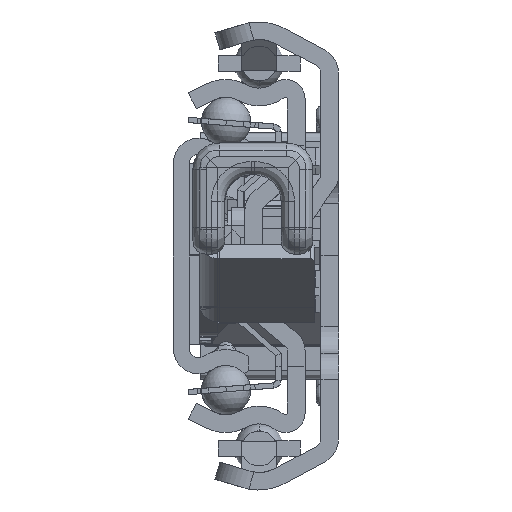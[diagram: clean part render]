
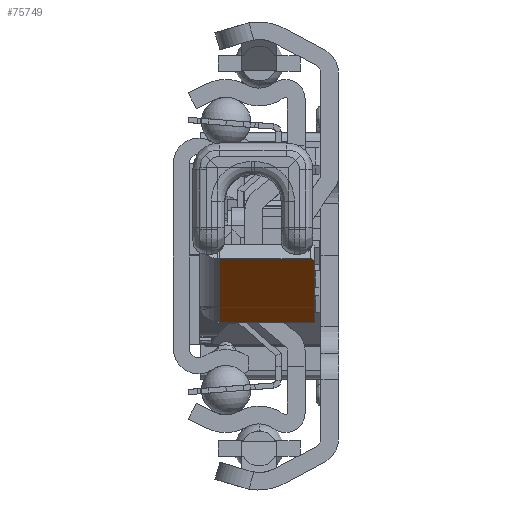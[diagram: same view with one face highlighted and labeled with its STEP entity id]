
A CAD part, left-side view. The second image highlights one B-rep face of the part: STEP entity #75749.
In plain terms, the highlighted planar face has unit normal (-0.597, 0, -0.802) as drawn and (-0.597, -0.802, 0) by its records, which use the part's own axes.
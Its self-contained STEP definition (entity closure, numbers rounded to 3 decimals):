
#75162=DIRECTION('',(0.802,-0.597,0.));
#75163=VECTOR('',#75162,12.);
#75164=CARTESIAN_POINT('',(31.957,-10.314,2.2));
#75165=LINE('',#75164,#75163);
#75190=CARTESIAN_POINT('',(32.358,-10.613,12.5));
#75191=DIRECTION('',(-0.597,-0.802,0.));
#75192=DIRECTION('',(0.,0.,1.));
#75193=AXIS2_PLACEMENT_3D('',#75190,#75191,#75192);
#75195=DIRECTION('',(-0.802,0.597,0.));
#75196=VECTOR('',#75195,11.5);
#75197=CARTESIAN_POINT('',(41.586,-17.476,13.));
#75198=LINE('',#75197,#75196);
#75199=DIRECTION('',(0.,0.,1.));
#75200=VECTOR('',#75199,10.8);
#75201=CARTESIAN_POINT('',(41.586,-17.476,2.2));
#75202=LINE('',#75201,#75200);
#75203=DIRECTION('',(0.,0.,-1.));
#75204=VECTOR('',#75203,10.3);
#75205=CARTESIAN_POINT('',(31.957,-10.314,12.5));
#75206=LINE('',#75205,#75204);
#75410=CARTESIAN_POINT('',(41.586,-17.476,2.2));
#75411=CARTESIAN_POINT('',(41.586,-17.476,13.));
#75412=VERTEX_POINT('',#75410);
#75413=VERTEX_POINT('',#75411);
#75414=CARTESIAN_POINT('',(31.957,-10.314,2.2));
#75415=VERTEX_POINT('',#75414);
#75446=CARTESIAN_POINT('',(32.358,-10.613,13.));
#75447=CARTESIAN_POINT('',(31.957,-10.314,12.5));
#75448=VERTEX_POINT('',#75446);
#75449=VERTEX_POINT('',#75447);
#75733=CARTESIAN_POINT('',(34.726,-12.374,0.));
#75734=DIRECTION('',(-0.597,-0.802,0.));
#75735=DIRECTION('',(0.802,-0.597,0.));
#75736=AXIS2_PLACEMENT_3D('',#75733,#75734,#75735);
#75737=PLANE('',#75736);
#75739=ORIENTED_EDGE('',*,*,#75738,.F.);
#75741=ORIENTED_EDGE('',*,*,#75740,.F.);
#75743=ORIENTED_EDGE('',*,*,#75742,.F.);
#75744=ORIENTED_EDGE('',*,*,#75720,.F.);
#75746=ORIENTED_EDGE('',*,*,#75745,.F.);
#75747=EDGE_LOOP('',(#75739,#75741,#75743,#75744,#75746));
#75748=FACE_OUTER_BOUND('',#75747,.F.);
#75194=CIRCLE('',#75193,0.5);
#75720=EDGE_CURVE('',#75415,#75412,#75165,.T.);
#75738=EDGE_CURVE('',#75448,#75449,#75194,.T.);
#75740=EDGE_CURVE('',#75413,#75448,#75198,.T.);
#75742=EDGE_CURVE('',#75412,#75413,#75202,.T.);
#75745=EDGE_CURVE('',#75449,#75415,#75206,.T.);
#75749=ADVANCED_FACE('',(#75748),#75737,.T.);
